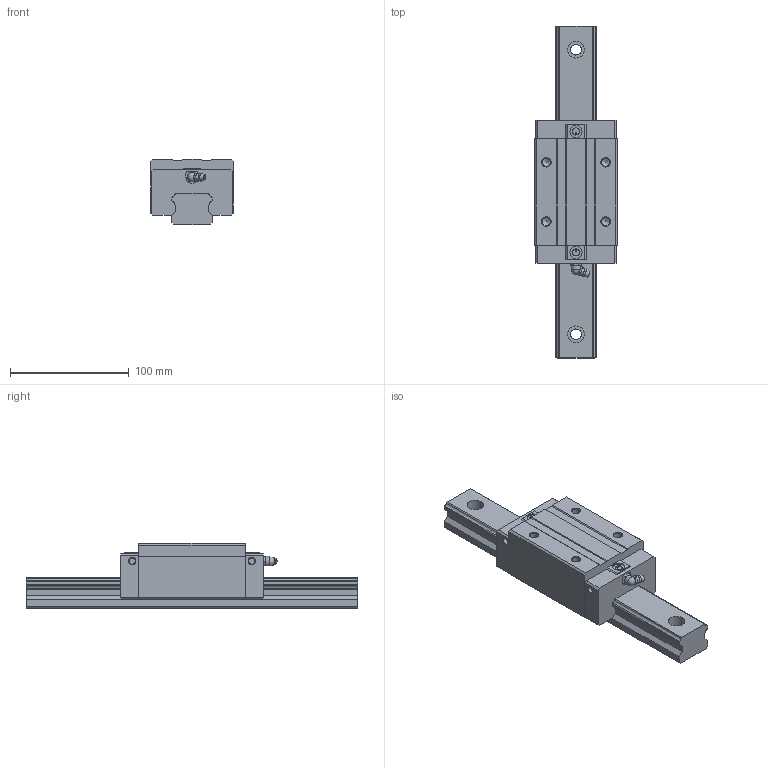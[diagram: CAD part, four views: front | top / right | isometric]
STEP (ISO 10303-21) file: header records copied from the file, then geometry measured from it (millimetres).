
FILE_DESCRIPTION(/* description */ (''),/* implementation_level */ '2;1');
FILE_NAME(/* name */ 'SME35-SA',/* time_stamp */ '2008-10-06T10:34:31+08:00',/* author */ (''),/* organization */ (''),/* preprocessor_version */ 'ST-DEVELOPER v11',/* originating_system */ 'UGS - NX 5.0',/* authorisation */ '');
FILE_SCHEMA (('AUTOMOTIVE_DESIGN { 1 0 10303 214 1 1 1 1 }'));
Length unit declared in the file: millimetre
Products named in the file (1): jillBD1Calny
Bounding box: 70 x 280 x 55 mm (x, y, z)
Volume: 521227.9 mm3; surface area: 78574.1 mm2
Topology: 3 solids, 3 shells, 187 faces, 483 edges, 318 vertices
Faces by surface type: plane 113, cylinder 49, cone 13, torus 7, sphere 4, bspline 1
Full cylindrical faces by diameter (mm): 5.2 x4, 6 x2, 6.5 x2, 6.8 x4, 8 x1, 9 x4, 10.2 x2, 14 x4
Entity records: 5719 total; most frequent: CARTESIAN_POINT 1076, DIRECTION 902, ORIENTED_EDGE 842, EDGE_CURVE 421, AXIS2_PLACEMENT_3D 312, VERTEX_POINT 302, LINE 278, VECTOR 278
